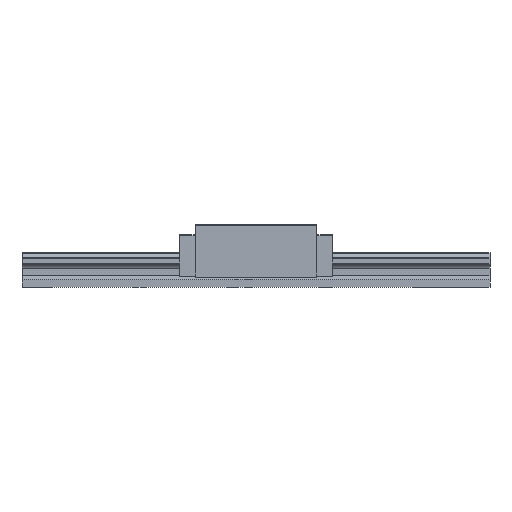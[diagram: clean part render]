
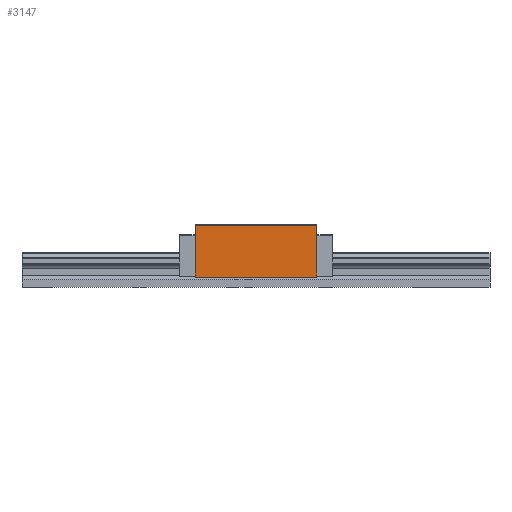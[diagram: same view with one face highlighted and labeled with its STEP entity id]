
A CAD part, front view. The second image highlights one B-rep face of the part: STEP entity #3147.
In plain terms, the highlighted planar face has unit normal (0, -1, 0).
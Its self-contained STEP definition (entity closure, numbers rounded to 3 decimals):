
#97 = CARTESIAN_POINT ( 'NONE',  ( 78.05, -50., 79.5 ) ) ;
#383 = EDGE_CURVE ( 'NONE', #3916, #3768, #2805, .T. ) ;
#712 = CARTESIAN_POINT ( 'NONE',  ( -78.05, -50., 80. ) ) ;
#735 = DIRECTION ( 'NONE',  ( 0., 0., -1. ) ) ;
#1088 = ORIENTED_EDGE ( 'NONE', *, *, #3166, .T. ) ;
#1161 = LINE ( 'NONE', #3134, #4778 ) ;
#1493 = DIRECTION ( 'NONE',  ( 1., 0., 0. ) ) ;
#1775 = VERTEX_POINT ( 'NONE', #1851 ) ;
#1851 = CARTESIAN_POINT ( 'NONE',  ( -78.05, -50., 13. ) ) ;
#1864 = ORIENTED_EDGE ( 'NONE', *, *, #4587, .F. ) ;
#1922 = DIRECTION ( 'NONE',  ( -1., 0., 0. ) ) ;
#1988 = LINE ( 'NONE', #712, #3351 ) ;
#2040 = ORIENTED_EDGE ( 'NONE', *, *, #3274, .F. ) ;
#2061 = CARTESIAN_POINT ( 'NONE',  ( 78.05, -50., 80. ) ) ;
#2269 = ORIENTED_EDGE ( 'NONE', *, *, #383, .T. ) ;
#2343 = CARTESIAN_POINT ( 'NONE',  ( 78.05, -50., 80. ) ) ;
#2520 = AXIS2_PLACEMENT_3D ( 'NONE', #2343, #2705, #1493 ) ;
#2705 = DIRECTION ( 'NONE',  ( 0., 1., 0. ) ) ;
#2706 = CARTESIAN_POINT ( 'NONE',  ( -78.05, -50., 79.5 ) ) ;
#2767 = VECTOR ( 'NONE', #4474, 1000. ) ;
#2805 = LINE ( 'NONE', #97, #3000 ) ;
#2833 = VERTEX_POINT ( 'NONE', #2836 ) ;
#2836 = CARTESIAN_POINT ( 'NONE',  ( 78.05, -50., 13. ) ) ;
#2905 = DIRECTION ( 'NONE',  ( -1., 0., 0. ) ) ;
#3000 = VECTOR ( 'NONE', #2905, 1000. ) ;
#3092 = PLANE ( 'NONE',  #2520 ) ;
#3134 = CARTESIAN_POINT ( 'NONE',  ( 78.05, -50., 13. ) ) ;
#3147 = ADVANCED_FACE ( 'NONE', ( #5057 ), #3092, .F. ) ;
#3166 = EDGE_CURVE ( 'NONE', #3768, #1775, #1988, .T. ) ;
#3274 = EDGE_CURVE ( 'NONE', #3916, #2833, #4785, .T. ) ;
#3351 = VECTOR ( 'NONE', #735, 1000. ) ;
#3768 = VERTEX_POINT ( 'NONE', #2706 ) ;
#3916 = VERTEX_POINT ( 'NONE', #4892 ) ;
#4474 = DIRECTION ( 'NONE',  ( 0., 0., -1. ) ) ;
#4587 = EDGE_CURVE ( 'NONE', #2833, #1775, #1161, .T. ) ;
#4778 = VECTOR ( 'NONE', #1922, 1000. ) ;
#4785 = LINE ( 'NONE', #2061, #2767 ) ;
#4866 = EDGE_LOOP ( 'NONE', ( #2040, #2269, #1088, #1864 ) ) ;
#4892 = CARTESIAN_POINT ( 'NONE',  ( 78.05, -50., 79.5 ) ) ;
#5057 = FACE_OUTER_BOUND ( 'NONE', #4866, .T. ) ;
